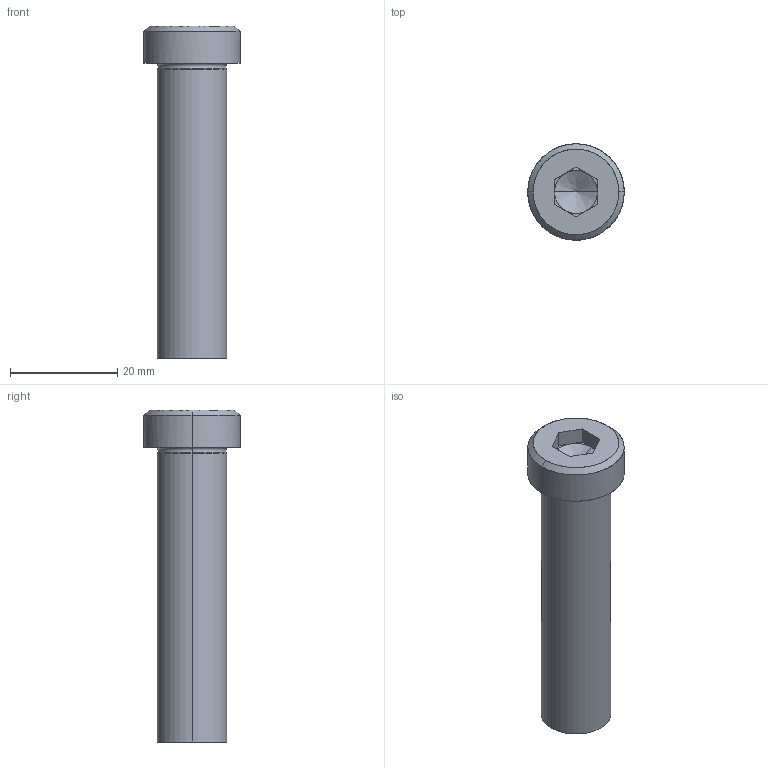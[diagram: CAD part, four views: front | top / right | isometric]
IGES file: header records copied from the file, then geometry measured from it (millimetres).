
Global section: file name: E:\UnigraphicsGraphicData\MISUMI_PRESS-PARTS\IGES\3d_sbtcn13-55_05151_r00.igs; native system: NX V5.0; preprocessor: UGS NX IGES V5.0; author: MISUMI; date: 20110105.162455; units: millimetre
Bounding box: 18 x 18 x 62 mm (x, y, z)
Surface area: 3633.6 mm2 (no closed solid volume)
Topology: 0 solids, 0 shells, 34 faces, 186 edges, 182 vertices
Faces by surface type: bspline 34
